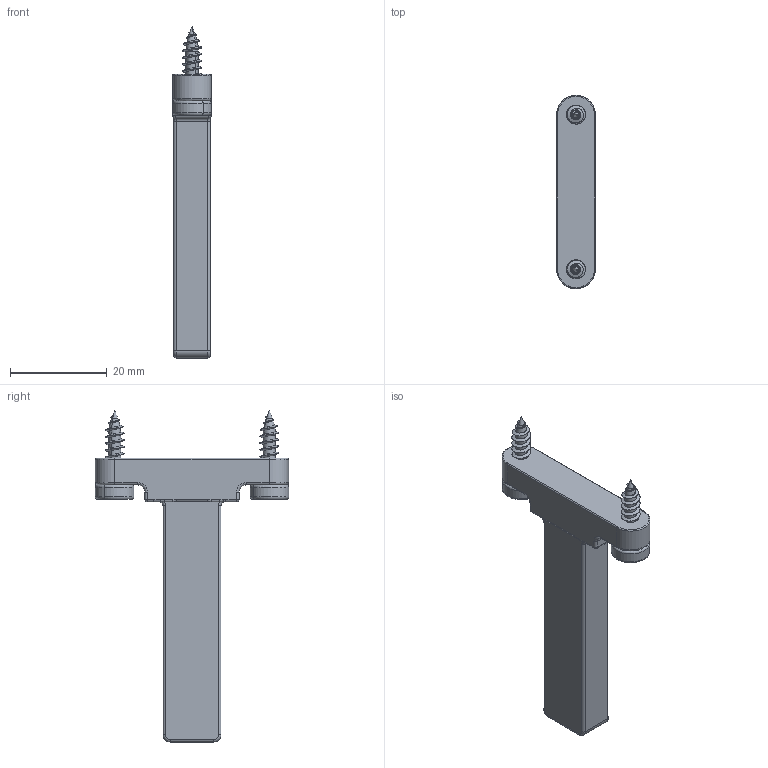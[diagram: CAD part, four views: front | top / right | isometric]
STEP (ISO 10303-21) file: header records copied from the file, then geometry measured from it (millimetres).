
FILE_DESCRIPTION (( 'STEP AP203' ), '1' );
FILE_NAME ('M01011.STEP', '2020-09-14T01:34:27', ( 'Users' ), ( 'Microsoft' ), 'SwSTEP 2.0', 'SolidWorks 2018', '' );
FILE_SCHEMA (( 'CONFIG_CONTROL_DESIGN' ));
Length unit declared in the file: millimetre
Products named in the file (1): M01011
Bounding box: 8 x 40 x 68.7 mm (x, y, z)
Volume: 7112.7 mm3; surface area: 3703.1 mm2
Topology: 1 solids, 3 shells, 196 faces, 504 edges, 308 vertices
Faces by surface type: cylinder 64, plane 64, torus 34, bspline 24, cone 6, sphere 4
Entity records: 10981 total; most frequent: CARTESIAN_POINT 6439, ORIENTED_EDGE 992, DIRECTION 870, EDGE_CURVE 496, AXIS2_PLACEMENT_3D 331, VERTEX_POINT 308, LINE 208, VECTOR 208
